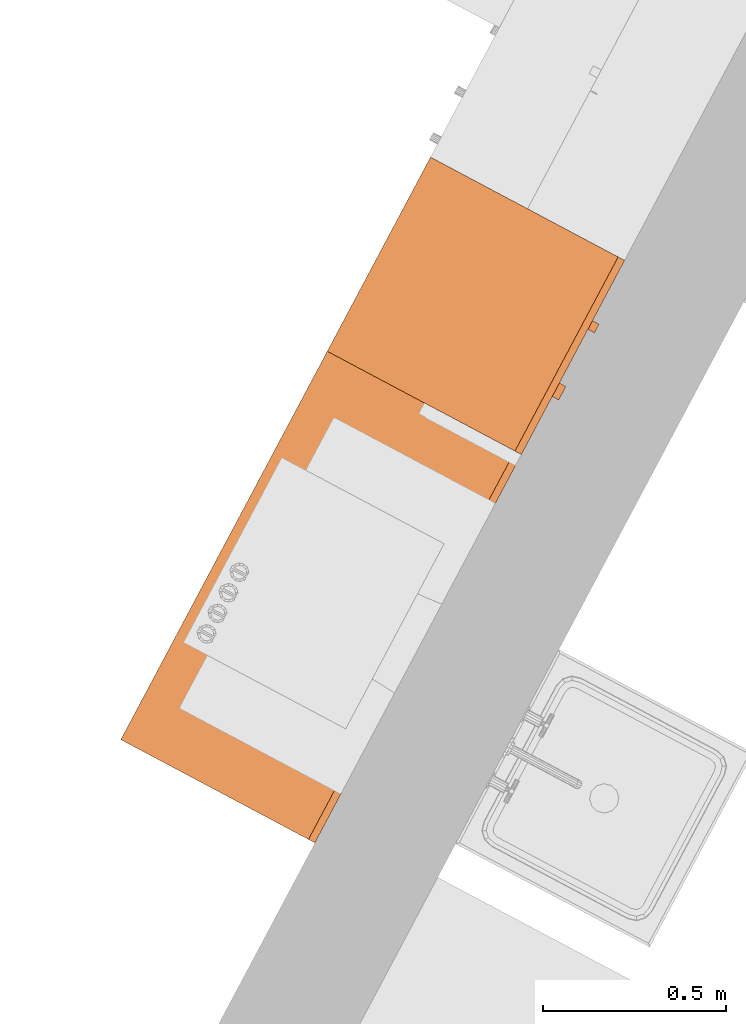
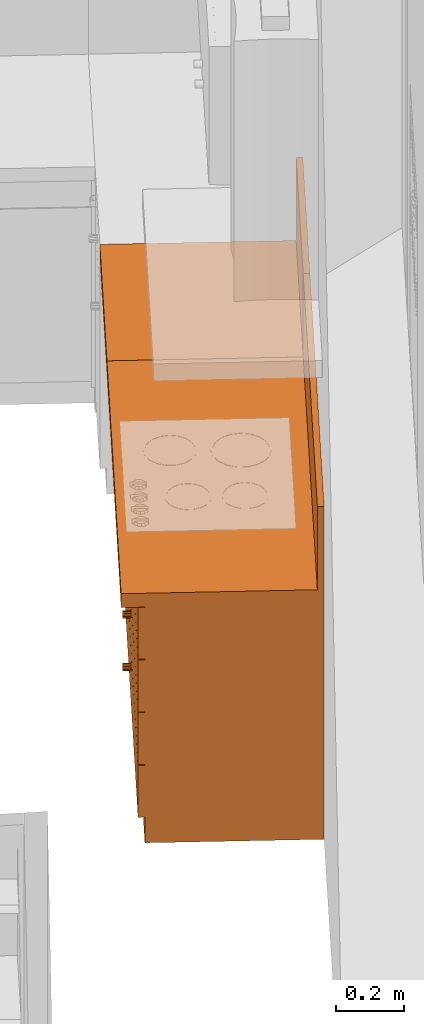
# One storey, part 22 of 27: 2 proxies.
"""IFC2X3 building model written with IfcOpenShell, lengths in metres."""

from ifc_helpers import new_model, entity, si_unit, converted_unit, derived_unit, money_unit, direction, frame, origin_with_axes, place, context, subcontext, project, spatial, open_shell, faceted_brep, surface_model, type_object, element, save


model = new_model("IFC2X3")

# Units and contexts
model_context = context("Model", 3, precision=1e-05, world=origin_with_axes(), true_north=direction((0.0, 1.0)))
body_context = subcontext(model_context, "Body", "Model", "MODEL_VIEW")
ifc_project = project(units=[si_unit("LENGTHUNIT", "METRE"), si_unit("AREAUNIT", "SQUARE_METRE"), si_unit("VOLUMEUNIT", "CUBIC_METRE"), converted_unit("PLANEANGLEUNIT", "DEGREE", entity("IfcPlaneAngleMeasure", 0.0174532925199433), si_unit("PLANEANGLEUNIT", "RADIAN"), dimensions=[0, 0, 0, 0, 0, 0, 0]), money_unit("CHF"), converted_unit("TIMEUNIT", "Year", entity("IfcTimeMeasure", 31557600.0), si_unit("TIMEUNIT", "SECOND"), dimensions=[0, 0, 1, 0, 0, 0, 0]), si_unit("MASSUNIT", "GRAM", prefix="KILO"), si_unit("THERMODYNAMICTEMPERATUREUNIT", "DEGREE_CELSIUS"), si_unit("LUMINOUSINTENSITYUNIT", "LUMEN"), si_unit("ENERGYUNIT", "JOULE", prefix="MEGA"), derived_unit("THERMALCONDUCTANCEUNIT", [(si_unit("POWERUNIT", "WATT"), 1), (si_unit("LENGTHUNIT", "METRE"), -1), (si_unit("THERMODYNAMICTEMPERATUREUNIT", "KELVIN"), -1)]), derived_unit("SPECIFICHEATCAPACITYUNIT", [(si_unit("ENERGYUNIT", "JOULE"), 1), (si_unit("MASSUNIT", "GRAM", prefix="KILO"), -1), (si_unit("THERMODYNAMICTEMPERATUREUNIT", "KELVIN"), -1)]), derived_unit("MASSDENSITYUNIT", [(si_unit("MASSUNIT", "GRAM", prefix="KILO"), 1), (si_unit("VOLUMEUNIT", "CUBIC_METRE"), -1)])], contexts=[model_context])

# Site, building, storey
site_placement = place(None, frame((0.0, 0.0, 0.0), z_axis=(0.0, 0.0, 1.0), x_axis=(-0.4694715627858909, -0.8829475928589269, 0.0)))
site = spatial("IfcSite", under=ifc_project, at=site_placement, Name="Site", CompositionType="ELEMENT")
building_placement = place(site_placement, origin_with_axes())
building = spatial("IfcBuilding", under=site, at=building_placement, Name="Bâtiment", CompositionType="ELEMENT")
storey_placement = place(building_placement, origin_with_axes())
storey = spatial("IfcBuildingStorey", under=building, at=storey_placement, Name="RDC", CompositionType="ELEMENT", Elevation=0.0)

# Proxies
building_element_proxy_type_1 = type_object("IfcBuildingElementProxyType", Name="Lave-vaisselle encastrable 27", PredefinedType="NOTDEFINED")
proxy_1_placement = place(storey_placement, frame((135.0295710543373, -829.63459910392, 0.0), z_axis=(0.0, 0.0, 1.0), x_axis=(1.0, 0.0, 0.0)))
element("IfcBuildingElementProxy", 1, at=proxy_1_placement, inside=storey, type_object=building_element_proxy_type_1, Name="Obj.-483", context=body_context, shape_type="SurfaceModel", body=[
    surface_model("IfcShellBasedSurfaceModel", [(0.2, 0.6, 0.6665000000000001), (0.196505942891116, 0.6, 0.6669600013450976), (0.196505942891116, 0.62, 0.6669600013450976), (0.2, 0.62, 0.6665000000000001), (0.19325, 0.6, 0.6683086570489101), (0.19325, 0.62, 0.6683086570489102), (0.203494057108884, 0.6, 0.6669600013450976), (0.203494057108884, 0.62, 0.6669600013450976), (0.1904540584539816, 0.6, 0.6704540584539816), (0.1904540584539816, 0.62, 0.6704540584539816), (0.20675, 0.6, 0.6683086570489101), (0.20675, 0.62, 0.6683086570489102), (0.1883086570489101, 0.6, 0.67325), (0.1883086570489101, 0.62, 0.67325), (0.2095459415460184, 0.6, 0.6704540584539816), (0.2095459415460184, 0.62, 0.6704540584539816), (0.1869600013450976, 0.6, 0.676505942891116), (0.1869600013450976, 0.62, 0.676505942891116), (0.2116913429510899, 0.6, 0.67325), (0.2116913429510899, 0.62, 0.67325), (0.1865, 0.6, 0.68), (0.1865, 0.62, 0.68), (0.2130399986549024, 0.6, 0.676505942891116), (0.2130399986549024, 0.62, 0.676505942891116), (0.1869600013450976, 0.6, 0.6834940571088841), (0.1869600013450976, 0.62, 0.6834940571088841), (0.2135, 0.6, 0.68), (0.2135, 0.62, 0.68), (0.1883086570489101, 0.6, 0.6867500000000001), (0.1883086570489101, 0.62, 0.6867500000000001), (0.2130399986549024, 0.6, 0.6834940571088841), (0.2130399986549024, 0.62, 0.6834940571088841), (0.1904540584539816, 0.6, 0.6895459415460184), (0.1904540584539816, 0.62, 0.6895459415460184), (0.2116913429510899, 0.6, 0.6867500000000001), (0.2116913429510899, 0.62, 0.6867500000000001), (0.19325, 0.6, 0.6916913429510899), (0.19325, 0.62, 0.69169134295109), (0.2095459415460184, 0.6, 0.6895459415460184), (0.2095459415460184, 0.62, 0.6895459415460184), (0.196505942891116, 0.6, 0.6930399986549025), (0.196505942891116, 0.62, 0.6930399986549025), (0.20675, 0.6, 0.69169134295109), (0.20675, 0.62, 0.69169134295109), (0.2, 0.6, 0.6935), (0.2, 0.62, 0.6935), (0.203494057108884, 0.6, 0.6930399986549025), (0.203494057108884, 0.62, 0.6930399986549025)], [open_shell([[[0, 1, 2, 3]], [[1, 4, 5, 2]], [[6, 0, 3, 7]], [[4, 8, 9, 5]], [[10, 6, 7, 11]], [[8, 12, 13, 9]], [[14, 10, 11, 15]], [[12, 16, 17, 13]], [[18, 14, 15, 19]], [[16, 20, 21, 17]], [[22, 18, 19, 23]], [[20, 24, 25, 21]], [[26, 22, 23, 27]], [[24, 28, 29, 25]], [[30, 26, 27, 31]], [[28, 32, 33, 29]], [[34, 30, 31, 35]], [[32, 36, 37, 33]], [[38, 34, 35, 39]], [[36, 40, 41, 37]], [[42, 38, 39, 43]], [[40, 44, 45, 41]], [[46, 42, 43, 47]], [[44, 46, 47, 45]]])]),
    surface_model("IfcShellBasedSurfaceModel", [(0.4, 0.6, 0.659), (0.3945648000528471, 0.6, 0.6597155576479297), (0.3945648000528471, 0.62, 0.6597155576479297), (0.4, 0.62, 0.659), (0.3895, 0.6, 0.6618134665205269), (0.3895, 0.62, 0.6618134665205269), (0.405435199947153, 0.6, 0.6597155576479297), (0.405435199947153, 0.62, 0.6597155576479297), (0.3851507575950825, 0.6, 0.6651507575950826), (0.3851507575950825, 0.62, 0.6651507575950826), (0.4105, 0.6, 0.6618134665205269), (0.4105, 0.62, 0.6618134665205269), (0.3818134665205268, 0.6, 0.6695000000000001), (0.3818134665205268, 0.62, 0.6695000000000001), (0.4148492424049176, 0.6, 0.6651507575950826), (0.4148492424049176, 0.62, 0.6651507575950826), (0.3797155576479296, 0.6, 0.6745648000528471), (0.3797155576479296, 0.62, 0.6745648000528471), (0.4181865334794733, 0.6, 0.6695000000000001), (0.4181865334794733, 0.62, 0.6695000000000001), (0.379, 0.6, 0.68), (0.379, 0.62, 0.68), (0.4202844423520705, 0.6, 0.6745648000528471), (0.4202844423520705, 0.62, 0.6745648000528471), (0.3797155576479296, 0.6, 0.685435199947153), (0.3797155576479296, 0.62, 0.685435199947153), (0.421, 0.6, 0.68), (0.421, 0.62, 0.68), (0.3818134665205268, 0.6, 0.6905), (0.3818134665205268, 0.62, 0.6905), (0.4202844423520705, 0.6, 0.685435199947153), (0.4202844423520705, 0.62, 0.685435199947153), (0.3851507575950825, 0.6, 0.6948492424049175), (0.3851507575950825, 0.62, 0.6948492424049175), (0.4181865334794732, 0.6, 0.6905000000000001), (0.4181865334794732, 0.62, 0.6905000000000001), (0.3895, 0.6, 0.6981865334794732), (0.3895, 0.62, 0.6981865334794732), (0.4148492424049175, 0.6, 0.6948492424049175), (0.4148492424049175, 0.62, 0.6948492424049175), (0.3945648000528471, 0.6, 0.7002844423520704), (0.3945648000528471, 0.62, 0.7002844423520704), (0.4105, 0.6, 0.6981865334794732), (0.4105, 0.62, 0.6981865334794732), (0.4, 0.6, 0.7010000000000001), (0.4, 0.62, 0.7010000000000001), (0.4054351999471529, 0.6, 0.7002844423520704), (0.4054351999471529, 0.62, 0.7002844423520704)], [open_shell([[[0, 1, 2, 3]], [[1, 4, 5, 2]], [[6, 0, 3, 7]], [[4, 8, 9, 5]], [[10, 6, 7, 11]], [[8, 12, 13, 9]], [[14, 10, 11, 15]], [[12, 16, 17, 13]], [[18, 14, 15, 19]], [[16, 20, 21, 17]], [[22, 18, 19, 23]], [[20, 24, 25, 21]], [[26, 22, 23, 27]], [[24, 28, 29, 25]], [[30, 26, 27, 31]], [[28, 32, 33, 29]], [[34, 30, 31, 35]], [[32, 36, 37, 33]], [[38, 34, 35, 39]], [[36, 40, 41, 37]], [[42, 38, 39, 43]], [[40, 44, 45, 41]], [[46, 42, 43, 47]], [[44, 46, 47, 45]]])]),
    faceted_brep([(0.0, 0.07, 0.0), (0.6, 0.07, 0.0), (0.6, 0.07, 0.09), (0.0, 0.07, 0.09), (0.0, 0.6, 0.0), (0.6, 0.6, 0.0), (0.6, 0.6, 0.09), (0.0, 0.6, 0.09)], [[[0, 1, 2, 3]], [[0, 4, 5, 1]], [[1, 5, 6, 2]], [[3, 2, 6, 7]], [[4, 0, 3, 7]], [[5, 4, 7, 6]]]),
    faceted_brep([(0.0, 0.07, 0.83), (0.02, 0.07, 0.83), (0.02, 0.07, 0.85), (0.0, 0.07, 0.85), (0.0, 0.6, 0.83), (0.02, 0.6, 0.83), (0.58, 0.6, 0.83), (0.6, 0.6, 0.83), (0.6, 0.07, 0.83), (0.58, 0.07, 0.83), (0.58, 0.07, 0.85), (0.6, 0.07, 0.85), (0.6, 0.6, 0.85), (0.58, 0.6, 0.85), (0.02, 0.6, 0.85), (0.0, 0.6, 0.85)], [[[0, 1, 2, 3]], [[0, 4, 5, 6, 7, 8, 9, 1]], [[1, 9, 10, 2]], [[3, 2, 10, 11, 12, 13, 14, 15]], [[4, 0, 3, 15]], [[5, 4, 15, 14]], [[6, 5, 14, 13]], [[7, 6, 13, 12]], [[8, 7, 12, 11]], [[9, 8, 11, 10]]]),
    faceted_brep([(0.0, 0.07, 0.09), (0.02, 0.07, 0.09), (0.02, 0.07, 0.11), (0.0, 0.07, 0.11), (0.0, 0.6, 0.09), (0.02, 0.6, 0.09), (0.58, 0.6, 0.09), (0.6, 0.6, 0.09), (0.6, 0.07, 0.09), (0.58, 0.07, 0.09), (0.58, 0.07, 0.11), (0.6, 0.07, 0.11), (0.6, 0.6, 0.11), (0.58, 0.6, 0.11), (0.02, 0.6, 0.11), (0.0, 0.6, 0.11)], [[[0, 1, 2, 3]], [[0, 4, 5, 6, 7, 8, 9, 1]], [[1, 9, 10, 2]], [[3, 2, 10, 11, 12, 13, 14, 15]], [[4, 0, 3, 15]], [[5, 4, 15, 14]], [[6, 5, 14, 13]], [[7, 6, 13, 12]], [[8, 7, 12, 11]], [[9, 8, 11, 10]]]),
    faceted_brep([(0.0, 0.07, 0.11), (0.02, 0.07, 0.11), (0.02, 0.07, 0.83), (0.0, 0.07, 0.83), (0.0, 0.6, 0.11), (0.6, 0.6, 0.11), (0.6, 0.07, 0.11), (0.58, 0.07, 0.11), (0.58, 0.58, 0.11), (0.02, 0.58, 0.11), (0.02, 0.58, 0.83), (0.58, 0.58, 0.83), (0.58, 0.07, 0.83), (0.6, 0.07, 0.83), (0.6, 0.6, 0.83), (0.0, 0.6, 0.83)], [[[0, 1, 2, 3]], [[0, 4, 5, 6, 7, 8, 9, 1]], [[1, 9, 10, 2]], [[3, 2, 10, 11, 12, 13, 14, 15]], [[4, 0, 3, 15]], [[5, 4, 15, 14]], [[6, 5, 14, 13]], [[7, 6, 13, 12]], [[8, 7, 12, 11]], [[9, 8, 11, 10]]]),
    faceted_brep([(0.0, 0.0, 0.85), (0.6, 0.0, 0.85), (0.6, 0.0, 0.9), (0.0, 0.0, 0.9), (0.0, 0.6, 0.85), (0.6, 0.6, 0.85), (0.6, 0.6, 0.9), (0.0, 0.6, 0.9)], [[[0, 1, 2, 3]], [[0, 4, 5, 1]], [[1, 5, 6, 2]], [[3, 2, 6, 7]], [[4, 0, 3, 7]], [[5, 4, 7, 6]]]),
    faceted_brep([(0.0, 0.58, 0.9), (0.6, 0.58, 0.9), (0.6, 0.58, 1.2), (0.0, 0.58, 1.2), (0.0, 0.6, 0.9), (0.6, 0.6, 0.9), (0.6, 0.6, 1.2), (0.0, 0.6, 1.2)], [[[0, 1, 2, 3]], [[0, 4, 5, 1]], [[1, 5, 6, 2]], [[3, 2, 6, 7]], [[4, 0, 3, 7]], [[5, 4, 7, 6]]]),
    faceted_brep([(0.001500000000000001, 0.07, 0.0915), (0.5985, 0.07, 0.0915), (0.5985, 0.05, 0.0915), (0.001500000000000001, 0.05, 0.0915), (0.001500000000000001, 0.07000000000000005, 0.8485), (0.5985, 0.07000000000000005, 0.8485), (0.5985, 0.05000000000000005, 0.8485), (0.001500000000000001, 0.05000000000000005, 0.8485)], [[[0, 1, 2, 3]], [[0, 4, 5, 1]], [[1, 5, 6, 2]], [[3, 2, 6, 7]], [[4, 0, 3, 7]], [[5, 4, 7, 6]]]),
    faceted_brep([(0.2929465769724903, 0.05, 0.7752917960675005), (0.2885873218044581, 0.05, 0.7812917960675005), (0.2885873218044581, 0.05, 0.7887082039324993), (0.2929465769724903, 0.05, 0.7947082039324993), (0.3, 0.05, 0.7969999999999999), (0.3070534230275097, 0.05, 0.7947082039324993), (0.3114126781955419, 0.05, 0.7887082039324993), (0.3114126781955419, 0.05, 0.7812917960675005), (0.3070534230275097, 0.05, 0.7752917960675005), (0.3, 0.05, 0.7729999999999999), (0.2929465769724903, 0.025, 0.7752917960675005), (0.2885873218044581, 0.025, 0.7812917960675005), (0.2885873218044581, 0.025, 0.7887082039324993), (0.2929465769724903, 0.025, 0.7947082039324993), (0.3, 0.025, 0.7969999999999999), (0.3070534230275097, 0.025, 0.7947082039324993), (0.3114126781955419, 0.025, 0.7887082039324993), (0.3114126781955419, 0.025, 0.7812917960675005), (0.3070534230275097, 0.025, 0.7752917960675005), (0.3, 0.025, 0.7729999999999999)], [[[0, 1, 2, 3, 4, 5, 6, 7, 8, 9]], [[1, 0, 10, 11]], [[2, 1, 11, 12]], [[3, 2, 12, 13]], [[4, 3, 13, 14]], [[5, 4, 14, 15]], [[6, 5, 15, 16]], [[7, 6, 16, 17]], [[8, 7, 17, 18]], [[9, 8, 18, 19]], [[0, 9, 19, 10]], [[10, 19, 18, 17, 16, 15, 14, 13, 12, 11]]]),
])
building_element_proxy_type_2 = type_object("IfcBuildingElementProxyType", Name="Elément bas avec plusieurs tiroirs 24", PredefinedType="NOTDEFINED")
proxy_2_placement = place(storey_placement, frame((135.6295710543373, -829.63459910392, 0.0), z_axis=(0.0, 0.0, 1.0), x_axis=(1.0, 0.0, 0.0)))
element("IfcBuildingElementProxy", 2, at=proxy_2_placement, inside=storey, type_object=building_element_proxy_type_2, Name="Obj.-483", context=body_context, shape_type="Brep", body=[
    faceted_brep([(0.001499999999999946, 0.07, 0.0915), (1.1985, 0.07, 0.0915), (1.1985, 0.05, 0.0915), (0.001499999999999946, 0.05, 0.0915), (0.001499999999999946, 0.07000000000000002, 0.2785), (1.1985, 0.07000000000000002, 0.2785), (1.1985, 0.05000000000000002, 0.2785), (0.001499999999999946, 0.05000000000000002, 0.2785)], [[[0, 1, 2, 3]], [[0, 4, 5, 1]], [[1, 5, 6, 2]], [[3, 2, 6, 7]], [[4, 0, 3, 7]], [[5, 4, 7, 6]]]),
    faceted_brep([(0.5954077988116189, 0.05, 0.2039134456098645), (0.5915147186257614, 0.05, 0.2065147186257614), (0.5889134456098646, 0.05, 0.2104077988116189), (0.588, 0.05, 0.215), (0.5889134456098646, 0.05, 0.2195922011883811), (0.5915147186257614, 0.05, 0.2234852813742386), (0.5954077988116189, 0.05, 0.2260865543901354), (0.6, 0.05, 0.227), (0.6045922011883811, 0.05, 0.2260865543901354), (0.6084852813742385, 0.05, 0.2234852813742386), (0.6110865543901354, 0.05, 0.2195922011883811), (0.612, 0.05, 0.215), (0.6110865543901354, 0.05, 0.2104077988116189), (0.6084852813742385, 0.05, 0.2065147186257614), (0.6045922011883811, 0.05, 0.2039134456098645), (0.6, 0.05, 0.203), (0.5954077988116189, 0.025, 0.2039134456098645), (0.5915147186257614, 0.025, 0.2065147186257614), (0.5889134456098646, 0.025, 0.2104077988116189), (0.588, 0.025, 0.215), (0.5889134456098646, 0.025, 0.2195922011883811), (0.5915147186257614, 0.025, 0.2234852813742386), (0.5954077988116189, 0.025, 0.2260865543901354), (0.6, 0.025, 0.227), (0.6045922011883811, 0.025, 0.2260865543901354), (0.6084852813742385, 0.025, 0.2234852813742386), (0.6110865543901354, 0.025, 0.2195922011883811), (0.612, 0.025, 0.215), (0.6110865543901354, 0.025, 0.2104077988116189), (0.6084852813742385, 0.025, 0.2065147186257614), (0.6045922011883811, 0.025, 0.2039134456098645), (0.6, 0.025, 0.203)], [[[0, 1, 2, 3, 4, 5, 6, 7, 8, 9, 10, 11, 12, 13, 14, 15]], [[1, 0, 16, 17]], [[2, 1, 17, 18]], [[3, 2, 18, 19]], [[4, 3, 19, 20]], [[5, 4, 20, 21]], [[6, 5, 21, 22]], [[7, 6, 22, 23]], [[8, 7, 23, 24]], [[9, 8, 24, 25]], [[10, 9, 25, 26]], [[11, 10, 26, 27]], [[12, 11, 27, 28]], [[13, 12, 28, 29]], [[14, 13, 29, 30]], [[15, 14, 30, 31]], [[0, 15, 31, 16]], [[16, 31, 30, 29, 28, 27, 26, 25, 24, 23, 22, 21, 20, 19, 18, 17]]]),
    faceted_brep([(0.001499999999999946, 0.07, 0.2815), (1.1985, 0.07, 0.2815), (1.1985, 0.05, 0.2815), (0.001499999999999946, 0.05, 0.2815), (0.001499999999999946, 0.07000000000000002, 0.4685), (1.1985, 0.07000000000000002, 0.4685), (1.1985, 0.05000000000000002, 0.4685), (0.001499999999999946, 0.05000000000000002, 0.4685)], [[[0, 1, 2, 3]], [[0, 4, 5, 1]], [[1, 5, 6, 2]], [[3, 2, 6, 7]], [[4, 0, 3, 7]], [[5, 4, 7, 6]]]),
    faceted_brep([(0.5954077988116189, 0.05, 0.3939134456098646), (0.5915147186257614, 0.05, 0.3965147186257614), (0.5889134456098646, 0.05, 0.4004077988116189), (0.588, 0.05, 0.405), (0.5889134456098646, 0.05, 0.4095922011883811), (0.5915147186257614, 0.05, 0.4134852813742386), (0.5954077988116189, 0.05, 0.4160865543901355), (0.6, 0.05, 0.417), (0.6045922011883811, 0.05, 0.4160865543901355), (0.6084852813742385, 0.05, 0.4134852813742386), (0.6110865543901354, 0.05, 0.4095922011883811), (0.612, 0.05, 0.405), (0.6110865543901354, 0.05, 0.400407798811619), (0.6084852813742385, 0.05, 0.3965147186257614), (0.6045922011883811, 0.05, 0.3939134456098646), (0.6, 0.05, 0.393), (0.5954077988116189, 0.025, 0.3939134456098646), (0.5915147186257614, 0.025, 0.3965147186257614), (0.5889134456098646, 0.025, 0.4004077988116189), (0.588, 0.025, 0.405), (0.5889134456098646, 0.025, 0.4095922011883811), (0.5915147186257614, 0.025, 0.4134852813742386), (0.5954077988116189, 0.025, 0.4160865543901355), (0.6, 0.025, 0.417), (0.6045922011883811, 0.025, 0.4160865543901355), (0.6084852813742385, 0.025, 0.4134852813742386), (0.6110865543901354, 0.025, 0.4095922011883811), (0.612, 0.025, 0.405), (0.6110865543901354, 0.025, 0.400407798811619), (0.6084852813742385, 0.025, 0.3965147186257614), (0.6045922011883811, 0.025, 0.3939134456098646), (0.6, 0.025, 0.393)], [[[0, 1, 2, 3, 4, 5, 6, 7, 8, 9, 10, 11, 12, 13, 14, 15]], [[1, 0, 16, 17]], [[2, 1, 17, 18]], [[3, 2, 18, 19]], [[4, 3, 19, 20]], [[5, 4, 20, 21]], [[6, 5, 21, 22]], [[7, 6, 22, 23]], [[8, 7, 23, 24]], [[9, 8, 24, 25]], [[10, 9, 25, 26]], [[11, 10, 26, 27]], [[12, 11, 27, 28]], [[13, 12, 28, 29]], [[14, 13, 29, 30]], [[15, 14, 30, 31]], [[0, 15, 31, 16]], [[16, 31, 30, 29, 28, 27, 26, 25, 24, 23, 22, 21, 20, 19, 18, 17]]]),
    faceted_brep([(0.02, 0.07, 0.28), (1.18, 0.07, 0.28), (1.18, 0.07, 0.3), (0.02, 0.07, 0.3), (0.02, 0.58, 0.28), (1.18, 0.58, 0.28), (1.18, 0.58, 0.3), (0.02, 0.58, 0.3)], [[[0, 1, 2, 3]], [[0, 4, 5, 1]], [[1, 5, 6, 2]], [[3, 2, 6, 7]], [[4, 0, 3, 7]], [[5, 4, 7, 6]]]),
    faceted_brep([(0.001499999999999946, 0.07, 0.4715), (1.1985, 0.07, 0.4715), (1.1985, 0.05, 0.4715), (0.001499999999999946, 0.05, 0.4715), (0.001499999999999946, 0.07000000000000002, 0.6585), (1.1985, 0.07000000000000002, 0.6585), (1.1985, 0.05000000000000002, 0.6585), (0.001499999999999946, 0.05000000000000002, 0.6585)], [[[0, 1, 2, 3]], [[0, 4, 5, 1]], [[1, 5, 6, 2]], [[3, 2, 6, 7]], [[4, 0, 3, 7]], [[5, 4, 7, 6]]]),
    faceted_brep([(0.5954077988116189, 0.05, 0.5839134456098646), (0.5915147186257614, 0.05, 0.5865147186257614), (0.5889134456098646, 0.05, 0.5904077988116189), (0.588, 0.05, 0.595), (0.5889134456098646, 0.05, 0.5995922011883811), (0.5915147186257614, 0.05, 0.6034852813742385), (0.5954077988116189, 0.05, 0.6060865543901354), (0.6, 0.05, 0.607), (0.6045922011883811, 0.05, 0.6060865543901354), (0.6084852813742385, 0.05, 0.6034852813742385), (0.6110865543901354, 0.05, 0.5995922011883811), (0.612, 0.05, 0.595), (0.6110865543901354, 0.05, 0.5904077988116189), (0.6084852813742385, 0.05, 0.5865147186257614), (0.6045922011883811, 0.05, 0.5839134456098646), (0.6, 0.05, 0.583), (0.5954077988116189, 0.025, 0.5839134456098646), (0.5915147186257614, 0.025, 0.5865147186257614), (0.5889134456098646, 0.025, 0.5904077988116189), (0.588, 0.025, 0.595), (0.5889134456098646, 0.025, 0.5995922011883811), (0.5915147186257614, 0.025, 0.6034852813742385), (0.5954077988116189, 0.025, 0.6060865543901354), (0.6, 0.025, 0.607), (0.6045922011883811, 0.025, 0.6060865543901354), (0.6084852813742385, 0.025, 0.6034852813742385), (0.6110865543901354, 0.025, 0.5995922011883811), (0.612, 0.025, 0.595), (0.6110865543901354, 0.025, 0.5904077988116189), (0.6084852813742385, 0.025, 0.5865147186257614), (0.6045922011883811, 0.025, 0.5839134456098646), (0.6, 0.025, 0.583)], [[[0, 1, 2, 3, 4, 5, 6, 7, 8, 9, 10, 11, 12, 13, 14, 15]], [[1, 0, 16, 17]], [[2, 1, 17, 18]], [[3, 2, 18, 19]], [[4, 3, 19, 20]], [[5, 4, 20, 21]], [[6, 5, 21, 22]], [[7, 6, 22, 23]], [[8, 7, 23, 24]], [[9, 8, 24, 25]], [[10, 9, 25, 26]], [[11, 10, 26, 27]], [[12, 11, 27, 28]], [[13, 12, 28, 29]], [[14, 13, 29, 30]], [[15, 14, 30, 31]], [[0, 15, 31, 16]], [[16, 31, 30, 29, 28, 27, 26, 25, 24, 23, 22, 21, 20, 19, 18, 17]]]),
    faceted_brep([(0.02, 0.07, 0.47), (1.18, 0.07, 0.47), (1.18, 0.07, 0.49), (0.02, 0.07, 0.49), (0.02, 0.58, 0.47), (1.18, 0.58, 0.47), (1.18, 0.58, 0.49), (0.02, 0.58, 0.49)], [[[0, 1, 2, 3]], [[0, 4, 5, 1]], [[1, 5, 6, 2]], [[3, 2, 6, 7]], [[4, 0, 3, 7]], [[5, 4, 7, 6]]]),
    faceted_brep([(0.001499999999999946, 0.07, 0.6615), (1.1985, 0.07, 0.6615), (1.1985, 0.05, 0.6615), (0.001499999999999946, 0.05, 0.6615), (0.001499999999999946, 0.07000000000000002, 0.8485), (1.1985, 0.07000000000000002, 0.8485), (1.1985, 0.05000000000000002, 0.8485), (0.001499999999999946, 0.05000000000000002, 0.8485)], [[[0, 1, 2, 3]], [[0, 4, 5, 1]], [[1, 5, 6, 2]], [[3, 2, 6, 7]], [[4, 0, 3, 7]], [[5, 4, 7, 6]]]),
    faceted_brep([(0.5954077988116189, 0.05, 0.7739134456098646), (0.5915147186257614, 0.05, 0.7765147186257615), (0.5889134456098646, 0.05, 0.7804077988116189), (0.588, 0.05, 0.785), (0.5889134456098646, 0.05, 0.7895922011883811), (0.5915147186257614, 0.05, 0.7934852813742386), (0.5954077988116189, 0.05, 0.7960865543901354), (0.6, 0.05, 0.797), (0.6045922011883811, 0.05, 0.7960865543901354), (0.6084852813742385, 0.05, 0.7934852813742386), (0.6110865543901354, 0.05, 0.7895922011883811), (0.612, 0.05, 0.785), (0.6110865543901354, 0.05, 0.7804077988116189), (0.6084852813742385, 0.05, 0.7765147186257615), (0.6045922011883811, 0.05, 0.7739134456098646), (0.6, 0.05, 0.773), (0.5954077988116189, 0.025, 0.7739134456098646), (0.5915147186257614, 0.025, 0.7765147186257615), (0.5889134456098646, 0.025, 0.7804077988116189), (0.588, 0.025, 0.785), (0.5889134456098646, 0.025, 0.7895922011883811), (0.5915147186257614, 0.025, 0.7934852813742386), (0.5954077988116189, 0.025, 0.7960865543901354), (0.6, 0.025, 0.797), (0.6045922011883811, 0.025, 0.7960865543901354), (0.6084852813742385, 0.025, 0.7934852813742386), (0.6110865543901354, 0.025, 0.7895922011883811), (0.612, 0.025, 0.785), (0.6110865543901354, 0.025, 0.7804077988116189), (0.6084852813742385, 0.025, 0.7765147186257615), (0.6045922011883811, 0.025, 0.7739134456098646), (0.6, 0.025, 0.773)], [[[0, 1, 2, 3, 4, 5, 6, 7, 8, 9, 10, 11, 12, 13, 14, 15]], [[1, 0, 16, 17]], [[2, 1, 17, 18]], [[3, 2, 18, 19]], [[4, 3, 19, 20]], [[5, 4, 20, 21]], [[6, 5, 21, 22]], [[7, 6, 22, 23]], [[8, 7, 23, 24]], [[9, 8, 24, 25]], [[10, 9, 25, 26]], [[11, 10, 26, 27]], [[12, 11, 27, 28]], [[13, 12, 28, 29]], [[14, 13, 29, 30]], [[15, 14, 30, 31]], [[0, 15, 31, 16]], [[16, 31, 30, 29, 28, 27, 26, 25, 24, 23, 22, 21, 20, 19, 18, 17]]]),
    faceted_brep([(0.02, 0.07, 0.66), (1.18, 0.07, 0.66), (1.18, 0.07, 0.68), (0.02, 0.07, 0.68), (0.02, 0.58, 0.66), (1.18, 0.58, 0.66), (1.18, 0.58, 0.68), (0.02, 0.58, 0.68)], [[[0, 1, 2, 3]], [[0, 4, 5, 1]], [[1, 5, 6, 2]], [[3, 2, 6, 7]], [[4, 0, 3, 7]], [[5, 4, 7, 6]]]),
    faceted_brep([(0.0, 0.07, 0.0), (1.2, 0.07, 0.0), (1.2, 0.07, 0.09), (0.0, 0.07, 0.09), (0.0, 0.6, 0.0), (1.2, 0.6, 0.0), (1.2, 0.6, 0.09), (0.0, 0.6, 0.09)], [[[0, 1, 2, 3]], [[0, 4, 5, 1]], [[1, 5, 6, 2]], [[3, 2, 6, 7]], [[4, 0, 3, 7]], [[5, 4, 7, 6]]]),
    faceted_brep([(0.0, 0.07, 0.83), (0.02, 0.07, 0.83), (0.02, 0.07, 0.85), (0.0, 0.07, 0.85), (0.0, 0.6, 0.83), (0.02, 0.6, 0.83), (1.18, 0.6, 0.83), (1.2, 0.6, 0.83), (1.2, 0.07, 0.83), (1.18, 0.07, 0.83), (1.18, 0.07, 0.85), (1.2, 0.07, 0.85), (1.2, 0.6, 0.85), (1.18, 0.6, 0.85), (0.02, 0.6, 0.85), (0.0, 0.6, 0.85)], [[[0, 1, 2, 3]], [[0, 4, 5, 6, 7, 8, 9, 1]], [[1, 9, 10, 2]], [[3, 2, 10, 11, 12, 13, 14, 15]], [[4, 0, 3, 15]], [[5, 4, 15, 14]], [[6, 5, 14, 13]], [[7, 6, 13, 12]], [[8, 7, 12, 11]], [[9, 8, 11, 10]]]),
    faceted_brep([(0.0, 0.07, 0.09), (0.02, 0.07, 0.09), (0.02, 0.07, 0.11), (0.0, 0.07, 0.11), (0.0, 0.6, 0.09), (0.02, 0.6, 0.09), (1.18, 0.6, 0.09), (1.2, 0.6, 0.09), (1.2, 0.07, 0.09), (1.18, 0.07, 0.09), (1.18, 0.07, 0.11), (1.2, 0.07, 0.11), (1.2, 0.6, 0.11), (1.18, 0.6, 0.11), (0.02, 0.6, 0.11), (0.0, 0.6, 0.11)], [[[0, 1, 2, 3]], [[0, 4, 5, 6, 7, 8, 9, 1]], [[1, 9, 10, 2]], [[3, 2, 10, 11, 12, 13, 14, 15]], [[4, 0, 3, 15]], [[5, 4, 15, 14]], [[6, 5, 14, 13]], [[7, 6, 13, 12]], [[8, 7, 12, 11]], [[9, 8, 11, 10]]]),
    faceted_brep([(0.0, 0.07, 0.11), (0.02, 0.07, 0.11), (0.02, 0.07, 0.83), (0.0, 0.07, 0.83), (0.0, 0.6, 0.11), (1.2, 0.6, 0.11), (1.2, 0.07, 0.11), (1.18, 0.07, 0.11), (1.18, 0.58, 0.11), (0.02, 0.58, 0.11), (0.02, 0.58, 0.83), (1.18, 0.58, 0.83), (1.18, 0.07, 0.83), (1.2, 0.07, 0.83), (1.2, 0.6, 0.83), (0.0, 0.6, 0.83)], [[[0, 1, 2, 3]], [[0, 4, 5, 6, 7, 8, 9, 1]], [[1, 9, 10, 2]], [[3, 2, 10, 11, 12, 13, 14, 15]], [[4, 0, 3, 15]], [[5, 4, 15, 14]], [[6, 5, 14, 13]], [[7, 6, 13, 12]], [[8, 7, 12, 11]], [[9, 8, 11, 10]]]),
    faceted_brep([(0.0, 0.0, 0.85), (1.2, 0.0, 0.85), (1.2, 0.0, 0.9), (0.0, 0.0, 0.9), (0.0, 0.6, 0.85), (1.2, 0.6, 0.85), (1.2, 0.6, 0.9), (0.0, 0.6, 0.9)], [[[0, 1, 2, 3]], [[0, 4, 5, 1]], [[1, 5, 6, 2]], [[3, 2, 6, 7]], [[4, 0, 3, 7]], [[5, 4, 7, 6]]]),
    faceted_brep([(0.0, 0.58, 0.9), (1.2, 0.58, 0.9), (1.2, 0.58, 1.2), (0.0, 0.58, 1.2), (0.0, 0.6, 0.9), (1.2, 0.6, 0.9), (1.2, 0.6, 1.2), (0.0, 0.6, 1.2)], [[[0, 1, 2, 3]], [[0, 4, 5, 1]], [[1, 5, 6, 2]], [[3, 2, 6, 7]], [[4, 0, 3, 7]], [[5, 4, 7, 6]]]),
])

save(model, "model.ifc")
